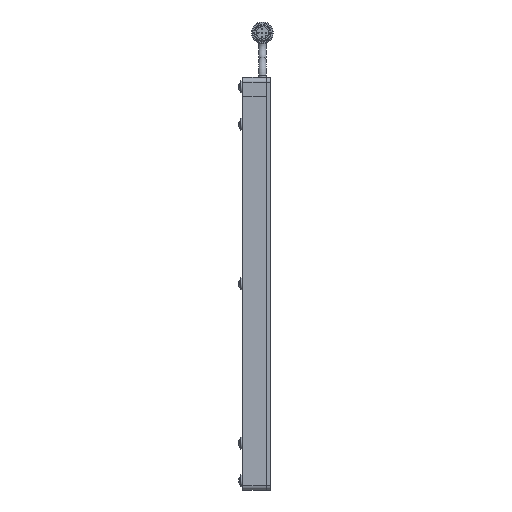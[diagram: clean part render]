
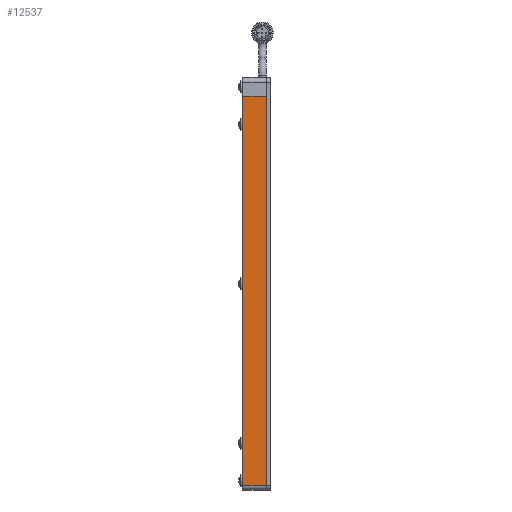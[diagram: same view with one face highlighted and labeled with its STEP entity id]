
A CAD part, left-side view. The second image highlights one B-rep face of the part: STEP entity #12537.
In plain terms, the highlighted planar face has unit normal (-1, 0, 0) as drawn and (0, 0, -1) by its records, which use the part's own axes.
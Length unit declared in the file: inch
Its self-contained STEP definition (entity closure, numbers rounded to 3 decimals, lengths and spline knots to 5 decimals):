
#116 = CARTESIAN_POINT ( 'NONE',  ( -5., -0.3125, -0.25 ) ) ;
#1003 = EDGE_CURVE ( 'NONE', #10256, #12960, #10437, .T. ) ;
#1178 = LINE ( 'NONE', #15193, #12572 ) ;
#1180 = VERTEX_POINT ( 'NONE', #9944 ) ;
#1469 = DIRECTION ( 'NONE',  ( 0., 1., 0. ) ) ;
#2326 = EDGE_CURVE ( 'NONE', #9187, #1180, #1178, .T. ) ;
#2938 = FACE_OUTER_BOUND ( 'NONE', #6996, .T. ) ;
#3537 = VECTOR ( 'NONE', #15053, 39.37008 ) ;
#4164 = LINE ( 'NONE', #16387, #3537 ) ;
#4265 = EDGE_CURVE ( 'NONE', #10256, #9187, #4164, .T. ) ;
#4864 = CARTESIAN_POINT ( 'NONE',  ( -5., 0.3125, -0.25 ) ) ;
#4881 = CARTESIAN_POINT ( 'NONE',  ( -5.5, 0.3125, -0.25 ) ) ;
#5751 = PLANE ( 'NONE',  #12695 ) ;
#5830 = DIRECTION ( 'NONE',  ( 0., 0., 1. ) ) ;
#6474 = DIRECTION ( 'NONE',  ( -1., 0., 0. ) ) ;
#6644 = CARTESIAN_POINT ( 'NONE',  ( -5.5, 0.3125, -0.25 ) ) ;
#6996 = EDGE_LOOP ( 'NONE', ( #15038, #14492, #11779, #9203 ) ) ;
#7253 = EDGE_CURVE ( 'NONE', #1180, #12960, #15640, .T. ) ;
#9187 = VERTEX_POINT ( 'NONE', #10928 ) ;
#9203 = ORIENTED_EDGE ( 'NONE', *, *, #7253, .T. ) ;
#9870 = DIRECTION ( 'NONE',  ( 1., 0., 0. ) ) ;
#9944 = CARTESIAN_POINT ( 'NONE',  ( -5., -0.3125, -0.25 ) ) ;
#10256 = VERTEX_POINT ( 'NONE', #11409 ) ;
#10437 = LINE ( 'NONE', #6644, #13383 ) ;
#10928 = CARTESIAN_POINT ( 'NONE',  ( 5.375, -0.3125, -0.25 ) ) ;
#11409 = CARTESIAN_POINT ( 'NONE',  ( 5.375, 0.3125, -0.25 ) ) ;
#11779 = ORIENTED_EDGE ( 'NONE', *, *, #2326, .T. ) ;
#12149 = DIRECTION ( 'NONE',  ( -1., 0., 0. ) ) ;
#12444 = VECTOR ( 'NONE', #1469, 39.37008 ) ;
#12537 = ADVANCED_FACE ( 'NONE', ( #2938 ), #5751, .F. ) ;
#12572 = VECTOR ( 'NONE', #12149, 39.37008 ) ;
#12695 = AXIS2_PLACEMENT_3D ( 'NONE', #4881, #5830, #9870 ) ;
#12960 = VERTEX_POINT ( 'NONE', #4864 ) ;
#13383 = VECTOR ( 'NONE', #6474, 39.37008 ) ;
#14492 = ORIENTED_EDGE ( 'NONE', *, *, #4265, .T. ) ;
#15038 = ORIENTED_EDGE ( 'NONE', *, *, #1003, .F. ) ;
#15053 = DIRECTION ( 'NONE',  ( 0., -1., 0. ) ) ;
#15193 = CARTESIAN_POINT ( 'NONE',  ( -5.5, -0.3125, -0.25 ) ) ;
#15640 = LINE ( 'NONE', #116, #12444 ) ;
#16387 = CARTESIAN_POINT ( 'NONE',  ( 5.375, 0.3125, -0.25 ) ) ;
